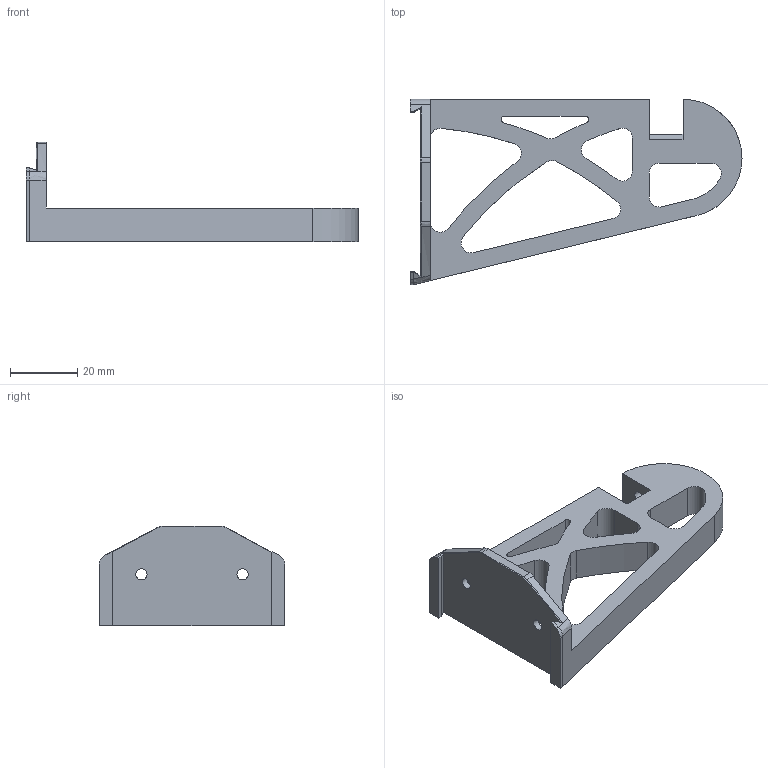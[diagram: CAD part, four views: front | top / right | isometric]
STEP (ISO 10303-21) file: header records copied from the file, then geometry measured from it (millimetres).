
FILE_DESCRIPTION(/* description */ ('STEP AP242','CAx-IF Rec.Pracs.---Representation and Presentation of Product Manufacturing Information (PMI)---4.0---2014-10-13','CAx-IF Rec.Pracs.---3D Tessellated Geometry---0.4---2014-09-14','2;1'),/* implementation_level */ '2;1');
FILE_NAME(/* name */ '62b7536d1a41712550c662b2',/* time_stamp */ '2022-06-25T18:26:54+00:00',/* author */ (''),/* organization */ (''),/* preprocessor_version */ 'ST-DEVELOPER v18.102',/* originating_system */ ' ',/* authorisation */ ' ');
FILE_SCHEMA (('AP242_MANAGED_MODEL_BASED_3D_ENGINEERING_MIM_LF { 1 0 10303 442 1 1 4 }'));
Length unit declared in the file: metre
Products named in the file (1): Arm Sliding Right
Bounding box: 98.5 x 55 x 29.5 mm (x, y, z)
Volume: 24672.3 mm3; surface area: 13519.5 mm2
Topology: 1 solids, 1 shells, 79 faces, 220 edges, 146 vertices
Faces by surface type: cylinder 35, plane 34, bspline 6, cone 4
Full cylindrical faces by diameter (mm): 2.7 x1, 3.3 x2, 3.5 x1, 6 x1
Entity records: 2606 total; most frequent: CARTESIAN_POINT 567, ORIENTED_EDGE 416, DIRECTION 410, EDGE_CURVE 208, AXIS2_PLACEMENT_3D 149, VERTEX_POINT 142, LINE 112, VECTOR 112
